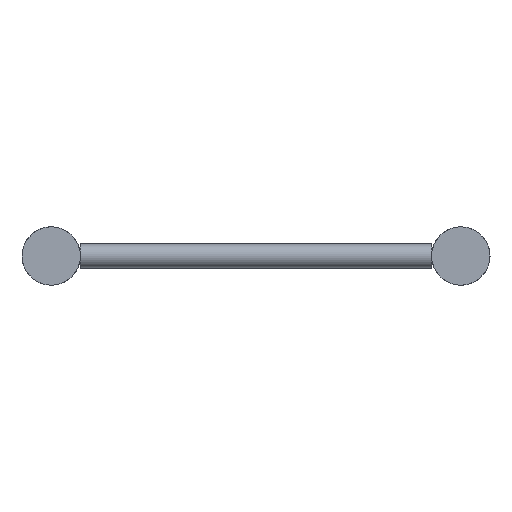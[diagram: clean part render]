
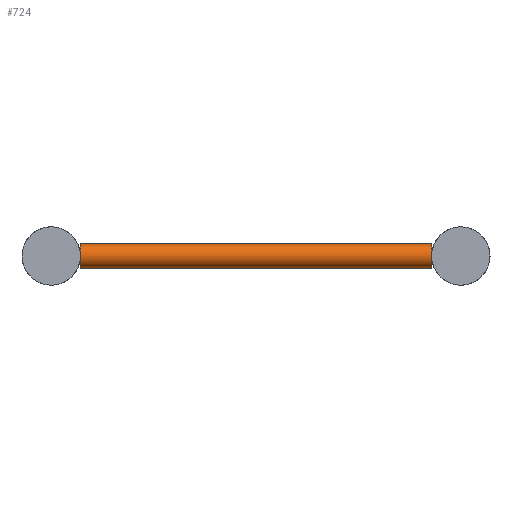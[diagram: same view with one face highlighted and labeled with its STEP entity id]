
A CAD part, left-side view. The second image highlights one B-rep face of the part: STEP entity #724.
In plain terms, the highlighted cylindrical face has radius 10 mm (diameter 20 mm), a full revolution.
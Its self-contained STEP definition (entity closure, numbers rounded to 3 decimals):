
#53=CIRCLE('',#806,10.);
#54=CIRCLE('',#808,10.);
#55=CIRCLE('',#810,10.);
#56=CIRCLE('',#812,10.);
#93=FACE_BOUND('',#246,.T.);
#138=CYLINDRICAL_SURFACE('',#811,10.);
#176=FACE_OUTER_BOUND('',#245,.T.);
#245=EDGE_LOOP('',(#500,#501));
#246=EDGE_LOOP('',(#502,#503));
#348=VERTEX_POINT('',#1150);
#349=VERTEX_POINT('',#1151);
#350=VERTEX_POINT('',#1155);
#351=VERTEX_POINT('',#1156);
#413=EDGE_CURVE('',#349,#348,#53,.T.);
#415=EDGE_CURVE('',#351,#350,#54,.T.);
#416=EDGE_CURVE('',#348,#349,#55,.T.);
#417=EDGE_CURVE('',#350,#351,#56,.T.);
#500=ORIENTED_EDGE('',*,*,#413,.T.);
#501=ORIENTED_EDGE('',*,*,#416,.T.);
#502=ORIENTED_EDGE('',*,*,#415,.T.);
#503=ORIENTED_EDGE('',*,*,#417,.T.);
#724=ADVANCED_FACE('',(#176,#93),#138,.T.);
#806=AXIS2_PLACEMENT_3D('',#1153,#951,#952);
#808=AXIS2_PLACEMENT_3D('',#1158,#956,#957);
#810=AXIS2_PLACEMENT_3D('',#1160,#960,#961);
#811=AXIS2_PLACEMENT_3D('',#1161,#962,#963);
#812=AXIS2_PLACEMENT_3D('',#1162,#964,#965);
#951=DIRECTION('center_axis',(0.,1.,0.));
#952=DIRECTION('ref_axis',(-1.,0.,0.));
#956=DIRECTION('center_axis',(0.,-1.,0.));
#957=DIRECTION('ref_axis',(-1.,0.,0.));
#960=DIRECTION('center_axis',(0.,1.,0.));
#961=DIRECTION('ref_axis',(-1.,0.,0.));
#962=DIRECTION('center_axis',(0.,1.,0.));
#963=DIRECTION('ref_axis',(-1.,0.,0.));
#964=DIRECTION('center_axis',(0.,-1.,0.));
#965=DIRECTION('ref_axis',(-1.,0.,0.));
#1150=CARTESIAN_POINT('',(50.,24.15,0.));
#1151=CARTESIAN_POINT('',(70.,24.15,0.));
#1153=CARTESIAN_POINT('Origin',(60.,24.15,0.));
#1155=CARTESIAN_POINT('',(50.,314.85,0.));
#1156=CARTESIAN_POINT('',(70.,314.85,0.));
#1158=CARTESIAN_POINT('Origin',(60.,314.85,0.));
#1160=CARTESIAN_POINT('Origin',(60.,24.15,0.));
#1161=CARTESIAN_POINT('Origin',(60.,169.5,0.));
#1162=CARTESIAN_POINT('Origin',(60.,314.85,0.));
